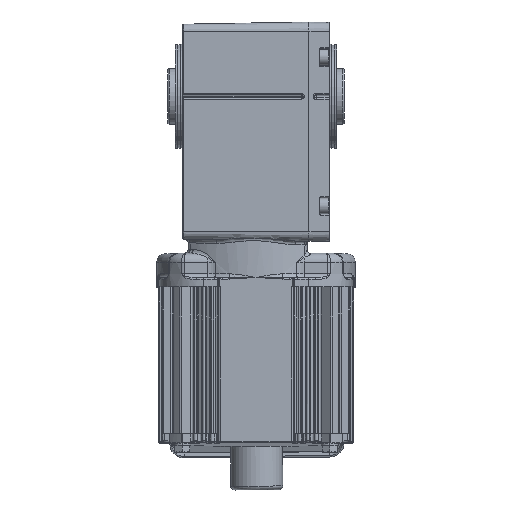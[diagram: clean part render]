
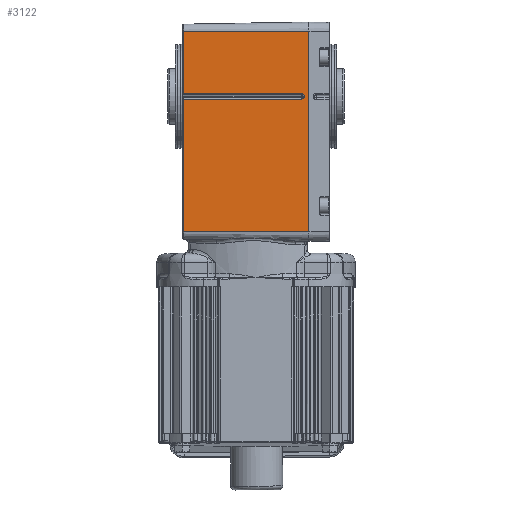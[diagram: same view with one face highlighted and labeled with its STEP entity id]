
A CAD part, top view. The second image highlights one B-rep face of the part: STEP entity #3122.
In plain terms, the highlighted planar face has unit normal (-0.018, 0, 1).
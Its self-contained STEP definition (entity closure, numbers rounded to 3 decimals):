
#3122 = ADVANCED_FACE( '', ( #7799 ), #7800, .T. );
#7799 = FACE_OUTER_BOUND( '', #22655, .T. );
#7800 = PLANE( '', #22656 );
#22655 = EDGE_LOOP( '', ( #58875, #58876, #58877, #58878, #58879, #58880, #58881, #58882 ) );
#22656 = AXIS2_PLACEMENT_3D( '', #58883, #58884, #58885 );
#58875 = ORIENTED_EDGE( '', *, *, #74204, .F. );
#58876 = ORIENTED_EDGE( '', *, *, #74205, .F. );
#58877 = ORIENTED_EDGE( '', *, *, #73705, .T. );
#58878 = ORIENTED_EDGE( '', *, *, #74206, .T. );
#58879 = ORIENTED_EDGE( '', *, *, #74207, .T. );
#58880 = ORIENTED_EDGE( '', *, *, #72491, .T. );
#58881 = ORIENTED_EDGE( '', *, *, #74208, .T. );
#58882 = ORIENTED_EDGE( '', *, *, #73686, .T. );
#58883 = CARTESIAN_POINT( '', ( 0., -23.5, 40. ) );
#58884 = DIRECTION( '', ( -0.017, 0., 1. ) );
#58885 = DIRECTION( '', ( 1., 0., 0.017 ) );
#72491 = EDGE_CURVE( '', #80035, #80033, #80036, .F. );
#73686 = EDGE_CURVE( '', #82039, #82037, #82040, .T. );
#73705 = EDGE_CURVE( '', #82064, #82070, #82072, .T. );
#74204 = EDGE_CURVE( '', #82857, #82037, #82858, .T. );
#74205 = EDGE_CURVE( '', #82064, #82857, #82859, .T. );
#74206 = EDGE_CURVE( '', #82070, #82860, #82861, .F. );
#74207 = EDGE_CURVE( '', #82860, #80035, #82862, .F. );
#74208 = EDGE_CURVE( '', #80033, #82039, #82863, .T. );
#80033 = VERTEX_POINT( '', #93068 );
#80035 = VERTEX_POINT( '', #93070 );
#80036 = LINE( '', #93071, #93072 );
#82037 = VERTEX_POINT( '', #98961 );
#82039 = VERTEX_POINT( '', #98963 );
#82040 = LINE( '', #98964, #98965 );
#82064 = VERTEX_POINT( '', #98995 );
#82070 = VERTEX_POINT( '', #99003 );
#82072 = LINE( '', #99005, #99006 );
#82857 = VERTEX_POINT( '', #101149 );
#82858 = LINE( '', #101150, #101151 );
#82859 = LINE( '', #101152, #101153 );
#82860 = VERTEX_POINT( '', #101154 );
#82861 = LINE( '', #101155, #101156 );
#82862 = CIRCLE( '', #101157, 1.457 );
#82863 = LINE( '', #101158, #101159 );
#93068 = CARTESIAN_POINT( '', ( -68., -1.457, 38.813 ) );
#93070 = CARTESIAN_POINT( '', ( -4.494, -1.457, 39.922 ) );
#93071 = CARTESIAN_POINT( '', ( -69., -1.457, 38.796 ) );
#93072 = VECTOR( '', #121756, 1000. );
#98961 = CARTESIAN_POINT( '', ( -0.5, -73., 39.991 ) );
#98963 = CARTESIAN_POINT( '', ( -68., -73., 38.813 ) );
#98964 = CARTESIAN_POINT( '', ( 0., -73., 40. ) );
#98965 = VECTOR( '', #123582, 1000. );
#98995 = CARTESIAN_POINT( '', ( -68., 35., 38.813 ) );
#99003 = CARTESIAN_POINT( '', ( -68., 1.457, 38.813 ) );
#99005 = CARTESIAN_POINT( '', ( -68., 1.457, 38.813 ) );
#99006 = VECTOR( '', #123609, 1000. );
#101149 = CARTESIAN_POINT( '', ( -0.5, 35., 39.991 ) );
#101150 = CARTESIAN_POINT( '', ( -0.5, -23.5, 39.991 ) );
#101151 = VECTOR( '', #124323, 1000. );
#101152 = CARTESIAN_POINT( '', ( 0., 35., 40. ) );
#101153 = VECTOR( '', #124324, 1000. );
#101154 = CARTESIAN_POINT( '', ( -4.499, 1.457, 39.921 ) );
#101155 = CARTESIAN_POINT( '', ( -4.499, 1.457, 39.921 ) );
#101156 = VECTOR( '', #124325, 1000. );
#101157 = AXIS2_PLACEMENT_3D( '', #124326, #124327, #124328 );
#101158 = CARTESIAN_POINT( '', ( -68., -73., 38.813 ) );
#101159 = VECTOR( '', #124329, 1000. );
#121756 = DIRECTION( '', ( 1., 0., 0.017 ) );
#123582 = DIRECTION( '', ( 1., 0., 0.017 ) );
#123609 = DIRECTION( '', ( 0., -1., 0. ) );
#124323 = DIRECTION( '', ( 0., -1., 0. ) );
#124324 = DIRECTION( '', ( 1., 0., 0.017 ) );
#124325 = DIRECTION( '', ( -1., 0., -0.017 ) );
#124326 = CARTESIAN_POINT( '', ( -4.499, 0., 39.921 ) );
#124327 = DIRECTION( '', ( -0.017, 0., 1. ) );
#124328 = DIRECTION( '', ( 1., 0., 0.017 ) );
#124329 = DIRECTION( '', ( 0., -1., 0. ) );
